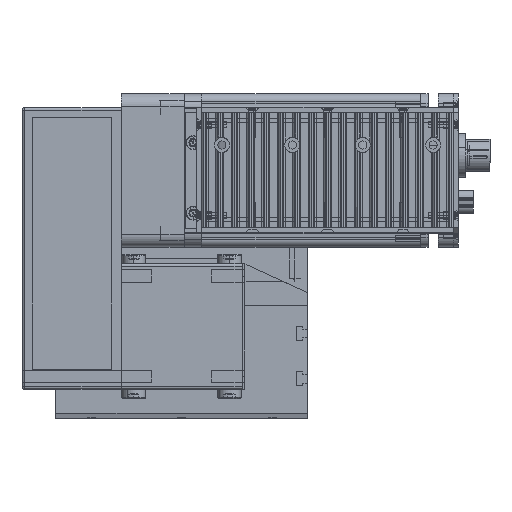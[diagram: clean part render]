
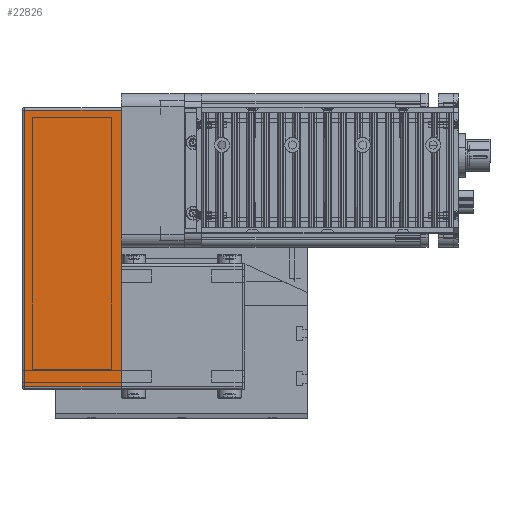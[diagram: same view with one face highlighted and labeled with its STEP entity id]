
A CAD part, top view. The second image highlights one B-rep face of the part: STEP entity #22826.
In plain terms, the highlighted planar face has unit normal (0, 0, 1) as drawn and (0, -1, 0) by its records, which use the part's own axes.
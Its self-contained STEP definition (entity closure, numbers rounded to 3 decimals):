
#18160 = CARTESIAN_POINT ( 'NONE',  ( 61., -25., 38.5 ) ) ;
#18180 = CARTESIAN_POINT ( 'NONE',  ( -49., -25., 0. ) ) ;
#18227 = DIRECTION ( 'NONE',  ( 0., 0., 1. ) ) ;
#18228 = VECTOR ( 'NONE', #18227, 1000. ) ;
#18229 = CARTESIAN_POINT ( 'NONE',  ( -49., -25., 39.5 ) ) ;
#18236 = LINE ( 'NONE', #18229, #18228 ) ;
#18258 = CARTESIAN_POINT ( 'NONE',  ( -49., -25., 38.5 ) ) ;
#18687 = CARTESIAN_POINT ( 'NONE',  ( 61., -25., 39.5 ) ) ;
#18688 = LINE ( 'NONE', #18687, #18716 ) ;
#18715 = DIRECTION ( 'NONE',  ( 0., 0., -1. ) ) ;
#18716 = VECTOR ( 'NONE', #18715, 1000. ) ;
#18717 = CARTESIAN_POINT ( 'NONE',  ( 61., -25., 0. ) ) ;
#22787 = ORIENTED_EDGE ( 'NONE', *, *, #22816, .T. ) ;
#22796 = EDGE_LOOP ( 'NONE', ( #22813, #22787, #22829, #22825 ) ) ;
#22813 = ORIENTED_EDGE ( 'NONE', *, *, #31836, .F. ) ;
#22816 = EDGE_CURVE ( 'NONE', #31849, #31944, #25013, .T. ) ;
#22825 = ORIENTED_EDGE ( 'NONE', *, *, #22828, .F. ) ;
#22826 = ADVANCED_FACE ( 'NONE', ( #25081 ), #25074, .F. ) ;
#22828 = EDGE_CURVE ( 'NONE', #31850, #31807, #25053, .T. ) ;
#22829 = ORIENTED_EDGE ( 'NONE', *, *, #31941, .F. ) ;
#25010 = DIRECTION ( 'NONE',  ( 1., 0., 0. ) ) ;
#25011 = VECTOR ( 'NONE', #25010, 1000. ) ;
#25012 = CARTESIAN_POINT ( 'NONE',  ( -50., -25., 0. ) ) ;
#25013 = LINE ( 'NONE', #25012, #25011 ) ;
#25053 = LINE ( 'NONE', #25064, #25062 ) ;
#25061 = DIRECTION ( 'NONE',  ( 1., 0., 0. ) ) ;
#25062 = VECTOR ( 'NONE', #25061, 1000. ) ;
#25064 = CARTESIAN_POINT ( 'NONE',  ( -50., -25., 38.5 ) ) ;
#25065 = DIRECTION ( 'NONE',  ( 0., 0., 1. ) ) ;
#25066 = DIRECTION ( 'NONE',  ( 0., 1., 0. ) ) ;
#25067 = CARTESIAN_POINT ( 'NONE',  ( -50., -25., 39.5 ) ) ;
#25068 = AXIS2_PLACEMENT_3D ( 'NONE', #25067, #25066, #25065 ) ;
#25074 = PLANE ( 'NONE',  #25068 ) ;
#25081 = FACE_OUTER_BOUND ( 'NONE', #22796, .T. ) ;
#31807 = VERTEX_POINT ( 'NONE', #18160 ) ;
#31836 = EDGE_CURVE ( 'NONE', #31849, #31850, #18236, .T. ) ;
#31849 = VERTEX_POINT ( 'NONE', #18180 ) ;
#31850 = VERTEX_POINT ( 'NONE', #18258 ) ;
#31941 = EDGE_CURVE ( 'NONE', #31807, #31944, #18688, .T. ) ;
#31944 = VERTEX_POINT ( 'NONE', #18717 ) ;
